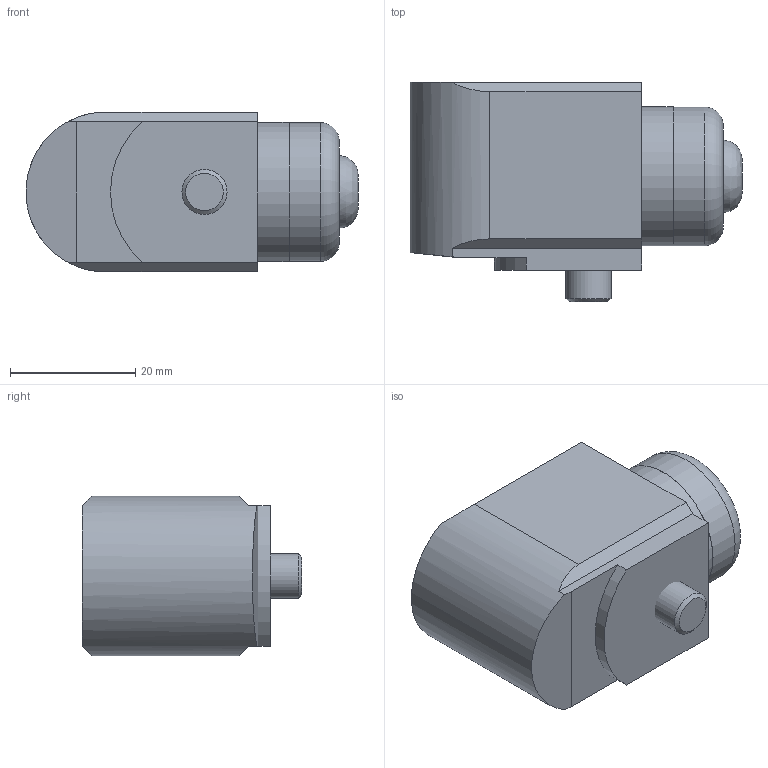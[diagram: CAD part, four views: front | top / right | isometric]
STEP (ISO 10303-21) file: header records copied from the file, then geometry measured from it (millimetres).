
FILE_DESCRIPTION(/* description */ (''),/* implementation_level */ '2;1');
FILE_NAME(/* name */ 'Z:\Engineering\Drawings\3D Library\Assemblies\Website\420 Velocity Side\HS-420SXXX0206.stp',/* time_stamp */ '2023-05-03T21:43:02+01:00',/* author */ ('Ricardo.Peneda'),/* organization */ (''),/* preprocessor_version */ 'ST-DEVELOPER v18.1',/* originating_system */ 'Autodesk Inventor 2021',/* authorisation */ '');
FILE_SCHEMA (('AUTOMOTIVE_DESIGN { 1 0 10303 214 3 1 1 }'));
Length unit declared in the file: inch
Products named in the file (1): HS-420SXXX0206_Shrinkwrap_1
Bounding box: 52.98 x 35 x 25.5 mm (x, y, z)
Volume: 20121.4 mm3; surface area: 11443.6 mm2
Topology: 4 solids, 4 shells, 65 faces, 160 edges, 117 vertices
Faces by surface type: plane 39, cylinder 19, cone 5, torus 1, bspline 1
Full cylindrical faces by diameter (mm): 4.2 x1, 4.5 x1, 5.359 x1, 7.2 x1, 10 x1, 11.2 x1, 13.941 x1, 15 x1, 17.941 x1, 18 x1, 19.891 x1, 20 x2, 20.4 x2, 22.141 x1, 22.2 x1
Entity records: 2155 total; most frequent: DIRECTION 379, CARTESIAN_POINT 369, ORIENTED_EDGE 320, EDGE_CURVE 160, AXIS2_PLACEMENT_3D 154, VERTEX_POINT 117, CIRCLE 84, EDGE_LOOP 83
